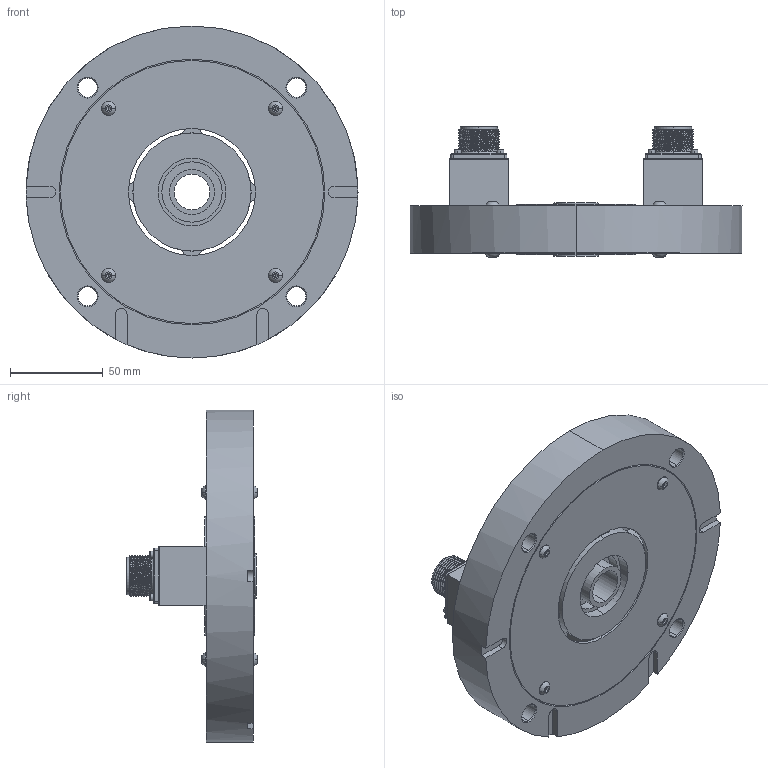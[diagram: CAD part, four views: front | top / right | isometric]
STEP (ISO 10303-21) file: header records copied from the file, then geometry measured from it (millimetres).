
FILE_DESCRIPTION (( 'STEP AP214' ), '1' );
FILE_NAME ('M231.STEP', '2022-09-20T13:03:01', ( '' ), ( '' ), 'SwSTEP 2.0', 'SolidWorks 2019', '' );
FILE_SCHEMA (( 'AUTOMOTIVE_DESIGN' ));
Length unit declared in the file: millimetre
Products named in the file (43): M231 Flanschstecker; socket button head screw_iso; socket head cap screw 4762_din; M231 Steckersockel; socket button head screw_iso_ISO 7380 - M4 x 10 - 10N; M231 Steckerpins; M231 Steckergehäuse; M231 Bleche; M231 Grundkörper; socket head cap screw 4762_din_EN ISO 4762 M2 x 3 - 3N; M231
Assembly tree (35 placements, depth 3):
  socket button head screw_iso
  socket head cap screw 4762_din
  socket button head screw_iso
  socket head cap screw 4762_din
  socket button head screw_iso
Bounding box: 178.5 x 70.3 x 178.5 mm (x, y, z)
Volume: 500679.3 mm3; surface area: 148785.7 mm2
Topology: 33 solids, 33 shells, 857 faces, 1986 edges, 1190 vertices
Faces by surface type: plane 357, cylinder 282, cone 104, torus 82, sphere 20, bspline 12
Entity records: 14049 total; most frequent: CARTESIAN_POINT 5828, DIRECTION 1678, ORIENTED_EDGE 1480, EDGE_CURVE 740, AXIS2_PLACEMENT_3D 661, VERTEX_POINT 469, LINE 356, VECTOR 356
